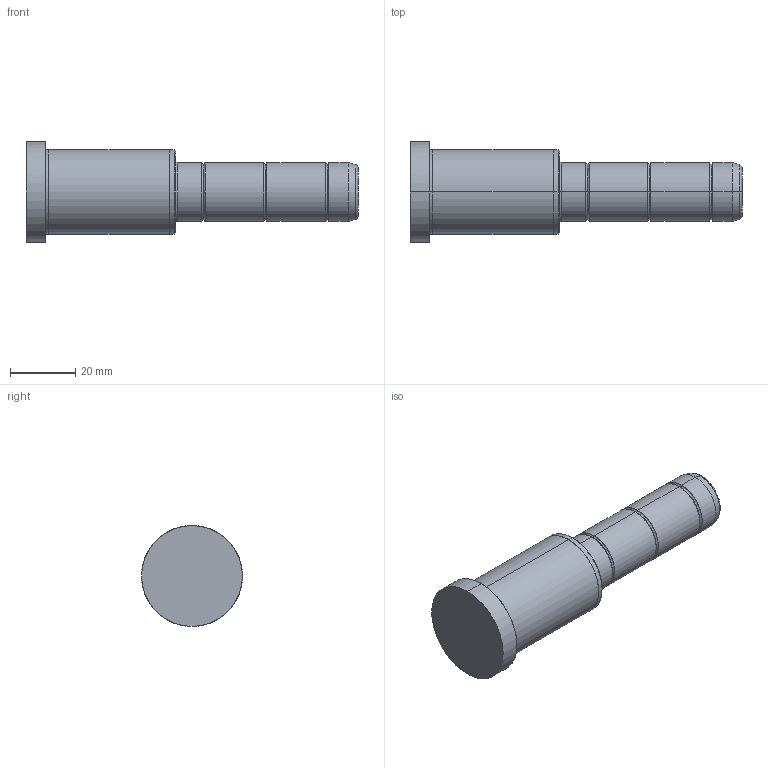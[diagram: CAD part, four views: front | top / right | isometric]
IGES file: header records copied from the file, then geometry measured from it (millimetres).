
Start section: SolidWorks IGES file using analytic representation for surfaces
Global section: file name: C:\Documents and Settings\kalite-mail\Desktop\IGS\D02\18\D02 - 18x46x56.IGS; native system: SolidWorks 2008; preprocessor: SolidWorks 2008; author: kalite-mail; date: 080616.151058; units: millimetre
Bounding box: 102 x 31 x 31 mm (x, y, z)
Surface area: 8525.8 mm2 (no closed solid volume)
Topology: 0 solids, 0 shells, 42 faces, 528 edges, 528 vertices
Faces by surface type: bspline 22, revolution 20
